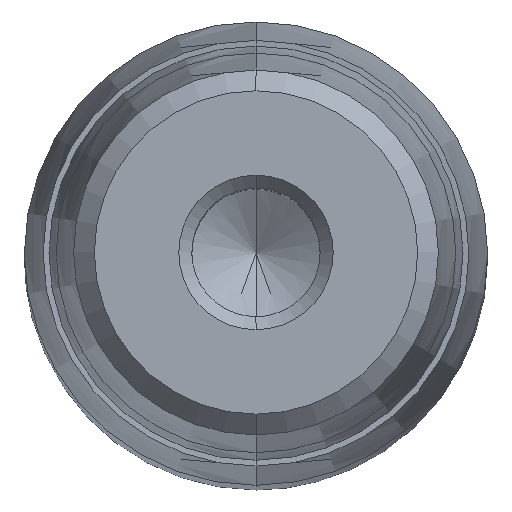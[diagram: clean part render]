
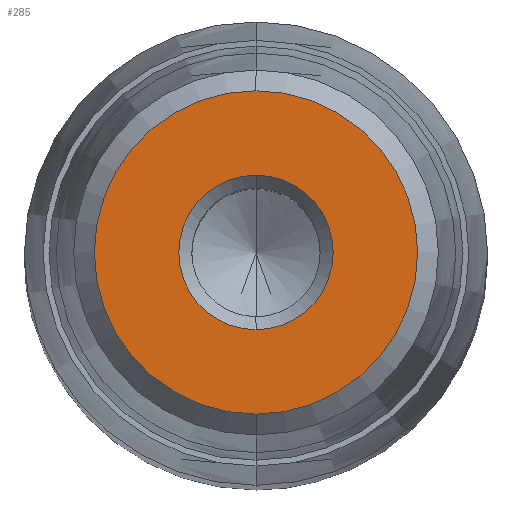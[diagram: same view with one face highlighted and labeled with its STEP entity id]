
A CAD part, top view. The second image highlights one B-rep face of the part: STEP entity #285.
In plain terms, the highlighted planar face has unit normal (0, 0, 1).
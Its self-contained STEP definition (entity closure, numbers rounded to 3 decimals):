
#164=CARTESIAN_POINT('Axis2P3D Location',(0.,0.,35.)) ;
#168=CARTESIAN_POINT('Vertex',(4.,0.,35.)) ;
#170=CARTESIAN_POINT('Vertex',(0.,-4.,35.)) ;
#173=CARTESIAN_POINT('Axis2P3D Location',(0.,0.,35.)) ;
#177=CARTESIAN_POINT('Vertex',(0.,4.,35.)) ;
#228=CARTESIAN_POINT('Axis2P3D Location',(0.,4.,35.)) ;
#233=CARTESIAN_POINT('Axis2P3D Location',(0.,0.,35.)) ;
#237=CARTESIAN_POINT('Vertex',(0.,8.375,35.)) ;
#239=CARTESIAN_POINT('Vertex',(8.375,0.,35.)) ;
#242=CARTESIAN_POINT('Axis2P3D Location',(0.,0.,35.)) ;
#246=CARTESIAN_POINT('Vertex',(-8.375,0.,35.)) ;
#249=CARTESIAN_POINT('Axis2P3D Location',(0.,0.,35.)) ;
#253=CARTESIAN_POINT('Vertex',(0.,-8.375,35.)) ;
#256=CARTESIAN_POINT('Axis2P3D Location',(0.,0.,35.)) ;
#267=CARTESIAN_POINT('Axis2P3D Location',(0.,0.,35.)) ;
#271=CARTESIAN_POINT('Vertex',(-4.,0.,35.)) ;
#274=CARTESIAN_POINT('Axis2P3D Location',(0.,0.,35.)) ;
#165=DIRECTION('Axis2P3D Direction',(0.,0.,1.)) ;
#174=DIRECTION('Axis2P3D Direction',(0.,0.,1.)) ;
#229=DIRECTION('Axis2P3D Direction',(-0.,0.,-1.)) ;
#230=DIRECTION('Axis2P3D XDirection',(0.,1.,0.)) ;
#234=DIRECTION('Axis2P3D Direction',(-0.,0.,-1.)) ;
#243=DIRECTION('Axis2P3D Direction',(-0.,0.,-1.)) ;
#250=DIRECTION('Axis2P3D Direction',(-0.,0.,-1.)) ;
#257=DIRECTION('Axis2P3D Direction',(-0.,0.,-1.)) ;
#268=DIRECTION('Axis2P3D Direction',(-0.,0.,-1.)) ;
#275=DIRECTION('Axis2P3D Direction',(-0.,0.,-1.)) ;
#166=AXIS2_PLACEMENT_3D('Circle Axis2P3D',#164,#165,$) ;
#175=AXIS2_PLACEMENT_3D('Circle Axis2P3D',#173,#174,$) ;
#231=AXIS2_PLACEMENT_3D('Plane Axis2P3D',#228,#229,#230) ;
#235=AXIS2_PLACEMENT_3D('Circle Axis2P3D',#233,#234,$) ;
#244=AXIS2_PLACEMENT_3D('Circle Axis2P3D',#242,#243,$) ;
#251=AXIS2_PLACEMENT_3D('Circle Axis2P3D',#249,#250,$) ;
#258=AXIS2_PLACEMENT_3D('Circle Axis2P3D',#256,#257,$) ;
#269=AXIS2_PLACEMENT_3D('Circle Axis2P3D',#267,#268,$) ;
#276=AXIS2_PLACEMENT_3D('Circle Axis2P3D',#274,#275,$) ;
#262=ORIENTED_EDGE('',*,*,#241,.F.) ;
#263=ORIENTED_EDGE('',*,*,#248,.F.) ;
#264=ORIENTED_EDGE('',*,*,#255,.F.) ;
#265=ORIENTED_EDGE('',*,*,#260,.F.) ;
#280=ORIENTED_EDGE('',*,*,#172,.T.) ;
#281=ORIENTED_EDGE('',*,*,#273,.T.) ;
#282=ORIENTED_EDGE('',*,*,#278,.T.) ;
#283=ORIENTED_EDGE('',*,*,#179,.T.) ;
#284=FACE_BOUND('',#279,.T.) ;
#285=ADVANCED_FACE('722-24x160x183',(#266,#284),#232,.F.) ;
#167=CIRCLE('generated circle',#166,4.) ;
#176=CIRCLE('generated circle',#175,4.) ;
#236=CIRCLE('generated circle',#235,8.375) ;
#245=CIRCLE('generated circle',#244,8.375) ;
#252=CIRCLE('generated circle',#251,8.375) ;
#259=CIRCLE('generated circle',#258,8.375) ;
#270=CIRCLE('generated circle',#269,4.) ;
#277=CIRCLE('generated circle',#276,4.) ;
#172=EDGE_CURVE('',#169,#171,#167,.F.) ;
#179=EDGE_CURVE('',#178,#169,#176,.F.) ;
#241=EDGE_CURVE('',#238,#240,#236,.T.) ;
#248=EDGE_CURVE('',#247,#238,#245,.T.) ;
#255=EDGE_CURVE('',#254,#247,#252,.T.) ;
#260=EDGE_CURVE('',#240,#254,#259,.T.) ;
#273=EDGE_CURVE('',#171,#272,#270,.T.) ;
#278=EDGE_CURVE('',#272,#178,#277,.T.) ;
#261=EDGE_LOOP('',(#262,#263,#264,#265)) ;
#279=EDGE_LOOP('',(#280,#281,#282,#283)) ;
#266=FACE_OUTER_BOUND('',#261,.T.) ;
#232=PLANE('Plane',#231) ;
#169=VERTEX_POINT('',#168) ;
#171=VERTEX_POINT('',#170) ;
#178=VERTEX_POINT('',#177) ;
#238=VERTEX_POINT('',#237) ;
#240=VERTEX_POINT('',#239) ;
#247=VERTEX_POINT('',#246) ;
#254=VERTEX_POINT('',#253) ;
#272=VERTEX_POINT('',#271) ;
